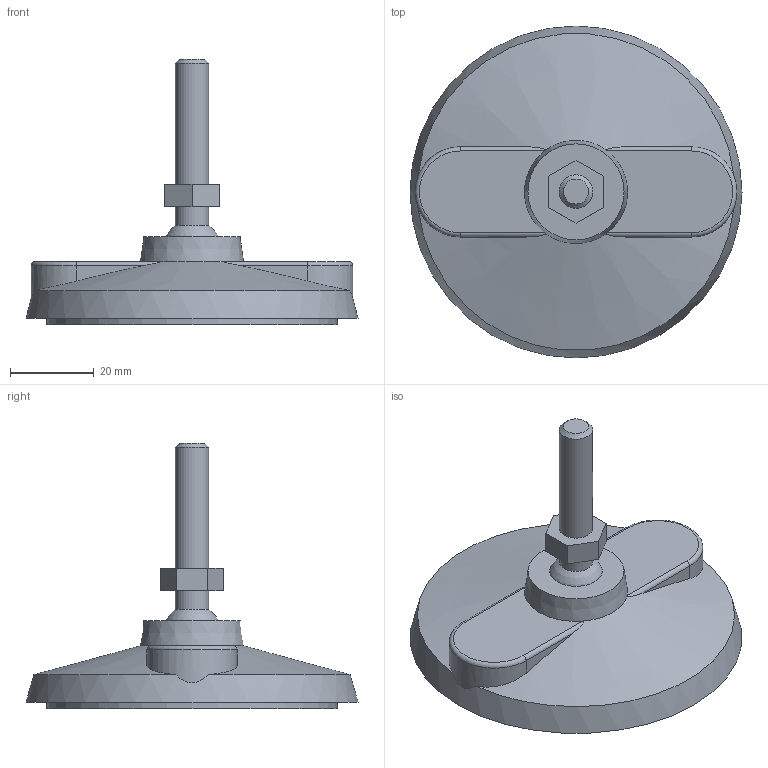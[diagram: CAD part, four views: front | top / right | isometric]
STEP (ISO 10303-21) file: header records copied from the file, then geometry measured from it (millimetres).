
FILE_DESCRIPTION( ('This file contains a STEP AP42 implementation' ,'as created by ZW3D STEP Interface translator.') ,'2;1' );
FILE_NAME( 'Stopa wahliwa D80.stp' ,'26 820. 94454', (''), ('ZWCAD Software Co.'), 'Version 1.0', 'ZW3D to STEP translator', '' );
FILE_SCHEMA(('AP242_MANAGED_MODEL_BASED_3D_ENGINEERING_MIM_LF { 1 0 10303 442 1 1 4 }'));
Length unit declared in the file: millimetre
Products named in the file (1): 0
Bounding box: 79.5 x 79.5 x 63.6 mm (x, y, z)
Volume: 53838.7 mm3; surface area: 26313.8 mm2
Topology: 3 solids, 3 shells, 129 faces, 318 edges, 208 vertices
Faces by surface type: plane 63, cylinder 37, cone 25, torus 2, sphere 2
Full cylindrical faces by diameter (mm): 8 x2, 8.8 x2, 17 x1, 69.5 x2
Entity records: 3954 total; most frequent: CARTESIAN_POINT 948, ORIENTED_EDGE 628, DIRECTION 582, EDGE_CURVE 314, AXIS2_PLACEMENT_3D 241, VERTEX_POINT 208, EDGE_LOOP 146, FACE_OUTER_BOUND 129
